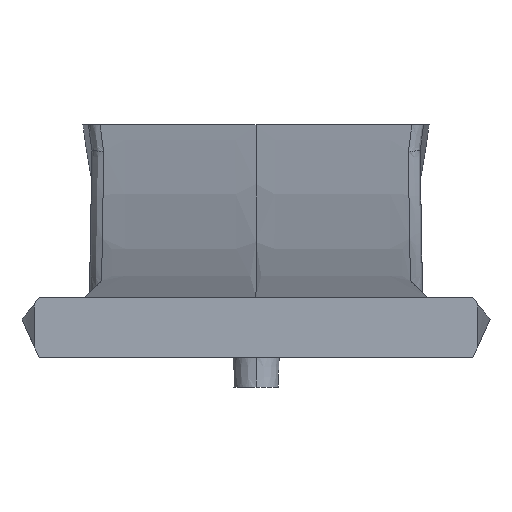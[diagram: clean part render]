
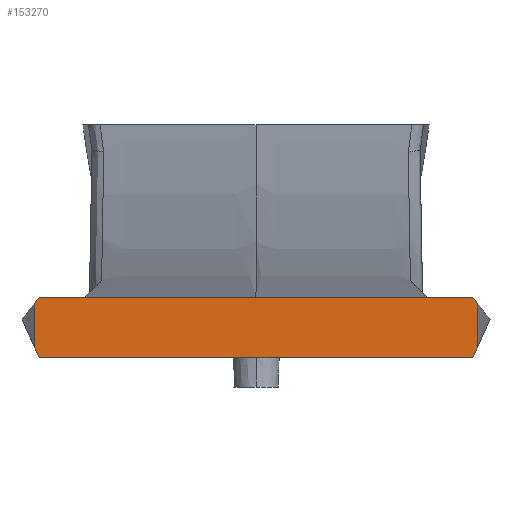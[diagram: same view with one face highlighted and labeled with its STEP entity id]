
A CAD part, left-side view. The second image highlights one B-rep face of the part: STEP entity #153270.
In plain terms, the highlighted planar face has unit normal (-1, 0, 0).
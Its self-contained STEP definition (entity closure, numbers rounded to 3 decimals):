
#65820=CARTESIAN_POINT('',(-9.55,8.85,1.65));
#65830=DIRECTION('',(0.,0.412,0.911));
#65840=VECTOR('',#65830,1.);
#65850=LINE('',#65820,#65840);
#65860=CARTESIAN_POINT('',(-9.55,8.85,1.65));
#65870=VERTEX_POINT('',#65860);
#65880=CARTESIAN_POINT('',(-9.55,9.05,2.093));
#65890=VERTEX_POINT('',#65880);
#65900=EDGE_CURVE('',#65870,#65890,#65850,.T.);
#85240=CARTESIAN_POINT('',(-9.55,8.85,4.1));
#85250=VERTEX_POINT('',#85240);
#85720=CARTESIAN_POINT('',(-9.55,-8.85,4.1));
#85730=VERTEX_POINT('',#85720);
#85760=CARTESIAN_POINT('',(-9.55,-9.019,4.1));
#85770=DIRECTION('',(0.,1.,0.));
#85780=VECTOR('',#85770,1.);
#85790=LINE('',#85760,#85780);
#85800=EDGE_CURVE('',#85730,#85250,#85790,.T.);
#118390=CARTESIAN_POINT('',(-9.55,-8.85,1.65));
#118400=VERTEX_POINT('',#118390);
#118940=CARTESIAN_POINT('',(-9.55,-9.019,1.65));
#118950=DIRECTION('',(0.,1.,0.));
#118960=VECTOR('',#118950,1.);
#118970=LINE('',#118940,#118960);
#118980=EDGE_CURVE('',#118400,#65870,#118970,.T.);
#123970=CARTESIAN_POINT('',(-9.55,-9.05,2.093));
#123980=VERTEX_POINT('',#123970);
#124120=CARTESIAN_POINT('',(-9.55,-8.85,1.65));
#124130=DIRECTION('',(0.,0.412,-0.911));
#124140=VECTOR('',#124130,1.);
#124150=LINE('',#124120,#124140);
#124160=EDGE_CURVE('',#123980,#118400,#124150,.T.);
#134740=CARTESIAN_POINT('',(-9.55,9.05,3.843));
#134750=VERTEX_POINT('',#134740);
#134780=CARTESIAN_POINT('',(-9.55,9.05,1.65));
#134790=DIRECTION('',(0.,0.,-1.));
#134800=VECTOR('',#134790,1.);
#134810=LINE('',#134780,#134800);
#134820=EDGE_CURVE('',#134750,#65890,#134810,.T.);
#152950=CARTESIAN_POINT('',(-9.55,-7.45,4.1));
#152960=DIRECTION('',(1.,0.,0.));
#152970=DIRECTION('',(0.,-1.,0.));
#152980=AXIS2_PLACEMENT_3D('',#152950,#152960,#152970);
#152990=PLANE('',#152980);
#153000=ORIENTED_EDGE('',*,*,#65900,.F.);
#153010=ORIENTED_EDGE('',*,*,#134820,.T.);
#153020=CARTESIAN_POINT('',(-9.55,10.756,1.65));
#153030=DIRECTION('',(0.,-0.614,0.789));
#153040=VECTOR('',#153030,1.);
#153050=LINE('',#153020,#153040);
#153060=EDGE_CURVE('',#134750,#85250,#153050,.T.);
#153070=ORIENTED_EDGE('',*,*,#153060,.F.);
#153080=ORIENTED_EDGE('',*,*,#85800,.T.);
#153090=CARTESIAN_POINT('',(-9.55,-10.756,1.65));
#153100=DIRECTION('',(0.,-0.614,-0.789));
#153110=VECTOR('',#153100,1.);
#153120=LINE('',#153090,#153110);
#153130=CARTESIAN_POINT('',(-9.55,-9.05,3.843));
#153140=VERTEX_POINT('',#153130);
#153150=EDGE_CURVE('',#85730,#153140,#153120,.T.);
#153160=ORIENTED_EDGE('',*,*,#153150,.F.);
#153170=CARTESIAN_POINT('',(-9.55,-9.05,1.65));
#153180=DIRECTION('',(0.,0.,1.));
#153190=VECTOR('',#153180,1.);
#153200=LINE('',#153170,#153190);
#153210=EDGE_CURVE('',#123980,#153140,#153200,.T.);
#153220=ORIENTED_EDGE('',*,*,#153210,.T.);
#153230=ORIENTED_EDGE('',*,*,#124160,.F.);
#153240=ORIENTED_EDGE('',*,*,#118980,.F.);
#153250=EDGE_LOOP('',(#153240,#153230,#153220,#153160,#153080,#153070,
#153010,#153000));
#153260=FACE_OUTER_BOUND('',#153250,.T.);
#153270=ADVANCED_FACE('',(#153260),#152990,.F.);
